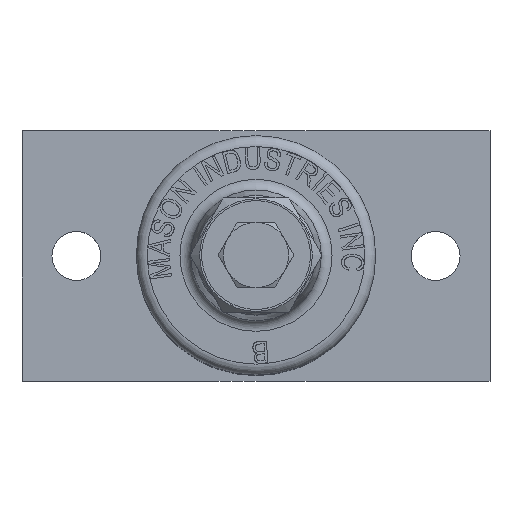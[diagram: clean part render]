
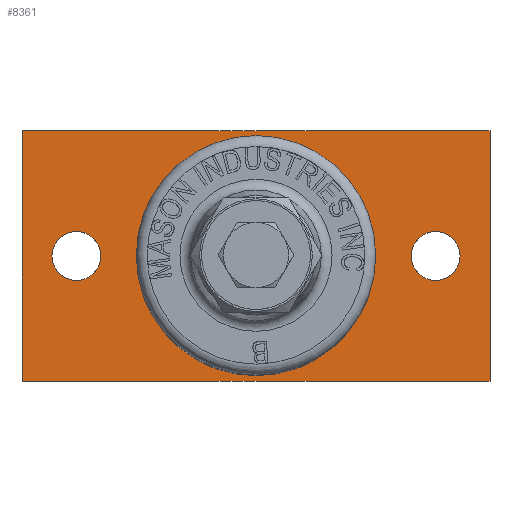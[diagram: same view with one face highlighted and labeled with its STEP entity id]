
A CAD part, top view. The second image highlights one B-rep face of the part: STEP entity #8361.
In plain terms, the highlighted planar face has unit normal (0, 0, 1).
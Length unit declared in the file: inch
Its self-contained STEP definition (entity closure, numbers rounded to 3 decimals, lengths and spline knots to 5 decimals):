
#174=CIRCLE($,#8699,0.28125);
#185=CIRCLE($,#8711,0.28125);
#188=CIRCLE($,#8807,1.375);
#834=FACE_BOUND($,#1340,.T.);
#835=FACE_BOUND($,#1341,.T.);
#836=FACE_BOUND($,#1342,.T.);
#837=FACE_BOUND($,#1343,.T.);
#1340=EDGE_LOOP($,(#7419));
#1341=EDGE_LOOP($,(#7420));
#1342=EDGE_LOOP($,(#7421));
#1343=EDGE_LOOP($,(#7422,#7423,#7424,#7425));
#2359=LINE($,#14443,#3217);
#2424=LINE($,#14577,#3282);
#2427=LINE($,#14594,#3285);
#2428=LINE($,#14596,#3286);
#3217=VECTOR($,#10350,5.375);
#3282=VECTOR($,#10473,5.375);
#3285=VECTOR($,#10496,2.875);
#3286=VECTOR($,#10499,2.875);
#3900=VERTEX_POINT($,#14110);
#3921=VERTEX_POINT($,#14153);
#4006=VERTEX_POINT($,#14440);
#4007=VERTEX_POINT($,#14442);
#4046=VERTEX_POINT($,#14574);
#4047=VERTEX_POINT($,#14576);
#4050=VERTEX_POINT($,#14587);
#4953=EDGE_CURVE($,#3900,#3900,#174,.T.);
#4974=EDGE_CURVE($,#3921,#3921,#185,.T.);
#5116=EDGE_CURVE($,#4006,#4007,#2359,.T.);
#5181=EDGE_CURVE($,#4046,#4047,#2424,.T.);
#5186=EDGE_CURVE($,#4050,#4050,#188,.T.);
#5188=EDGE_CURVE($,#4047,#4006,#2427,.T.);
#5189=EDGE_CURVE($,#4007,#4046,#2428,.T.);
#7419=ORIENTED_EDGE($,*,*,#4953,.T.);
#7420=ORIENTED_EDGE($,*,*,#4974,.T.);
#7421=ORIENTED_EDGE($,*,*,#5186,.T.);
#7422=ORIENTED_EDGE($,*,*,#5188,.F.);
#7423=ORIENTED_EDGE($,*,*,#5181,.F.);
#7424=ORIENTED_EDGE($,*,*,#5189,.F.);
#7425=ORIENTED_EDGE($,*,*,#5116,.F.);
#7919=PLANE($,#8813);
#8361=ADVANCED_FACE($,(#834,#835,#836,#837),#7919,.T.);
#8699=AXIS2_PLACEMENT_3D($,#14111,#10051,#10052);
#8711=AXIS2_PLACEMENT_3D($,#14154,#10085,#10086);
#8807=AXIS2_PLACEMENT_3D($,#14588,#10486,#10487);
#8813=AXIS2_PLACEMENT_3D($,#14597,#10500,#10501);
#10051=DIRECTION('center_axis',(0.,0.,-1.));
#10052=DIRECTION('ref_axis',(1.,0.,0.));
#10085=DIRECTION('center_axis',(0.,0.,-1.));
#10086=DIRECTION('ref_axis',(1.,0.,0.));
#10350=DIRECTION($,(-1.,0.,0.));
#10473=DIRECTION($,(1.,0.,0.));
#10486=DIRECTION('center_axis',(0.,0.,-1.));
#10487=DIRECTION('ref_axis',(-1.,0.,0.));
#10496=DIRECTION($,(0.,-1.,0.));
#10499=DIRECTION($,(0.,1.,0.));
#10500=DIRECTION('center_axis',(0.,0.,1.));
#10501=DIRECTION('ref_axis',(1.,0.,0.));
#14110=CARTESIAN_POINT('',(2.34375,0.,0.375));
#14111=CARTESIAN_POINT('Origin',(2.0625,0.,0.375));
#14153=CARTESIAN_POINT('',(-1.78125,0.,0.375));
#14154=CARTESIAN_POINT('Origin',(-2.0625,0.,0.375));
#14440=CARTESIAN_POINT('',(2.6875,-1.4375,0.375));
#14442=CARTESIAN_POINT('',(-2.6875,-1.4375,0.375));
#14443=CARTESIAN_POINT($,(2.6875,-1.4375,0.375));
#14574=CARTESIAN_POINT('',(-2.6875,1.4375,0.375));
#14576=CARTESIAN_POINT('',(2.6875,1.4375,0.375));
#14577=CARTESIAN_POINT($,(-2.6875,1.4375,0.375));
#14587=CARTESIAN_POINT('',(-1.375,0.,0.375));
#14588=CARTESIAN_POINT('Origin',(0.,0.,0.375));
#14594=CARTESIAN_POINT($,(2.6875,1.4375,0.375));
#14596=CARTESIAN_POINT($,(-2.6875,-1.4375,0.375));
#14597=CARTESIAN_POINT('Origin',(0.,0.,
0.375));
